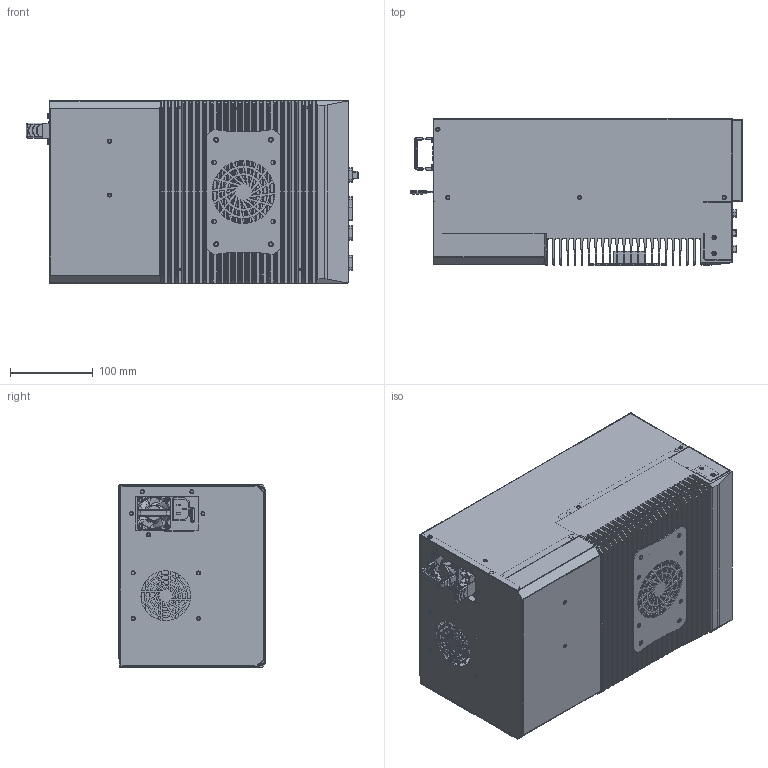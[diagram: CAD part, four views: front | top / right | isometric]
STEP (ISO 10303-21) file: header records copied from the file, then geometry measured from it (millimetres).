
FILE_DESCRIPTION((''),'2;1');
FILE_NAME('PRT0004','2025-06-24T20:18:43',('Administrator'),(''),'CREO PARAMETRIC BY PTC INC, 2022073','CREO PARAMETRIC BY PTC INC, 2022073','');
FILE_SCHEMA(('AUTOMOTIVE_DESIGN { 1 0 10303 214 1 1 1 1 }'));
Products named in the file (1): PRT0004
Bounding box: 401.1 x 176.6 x 220 mm (x, y, z)
Volume: 2972322.4 mm3; surface area: 1102592.4 mm2
Topology: 1 solids, 20 shells, 3798 faces, 10125 edges, 6480 vertices
Faces by surface type: plane 2039, cylinder 1379, sphere 132, torus 127, cone 96, bspline 25
Entity records: 152111 total; most frequent: CARTESIAN_POINT 27970, DIRECTION 20612, ORIENTED_EDGE 19986, EDGE_CURVE 9993, AXIS2_PLACEMENT_3D 7218, VERTEX_POINT 6480, VECTOR 6173, LINE 6173
